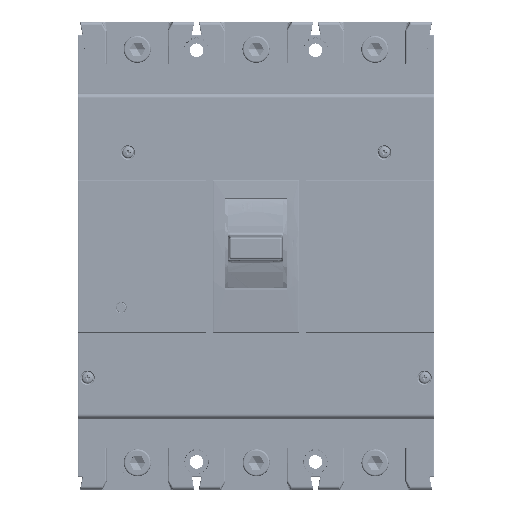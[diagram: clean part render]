
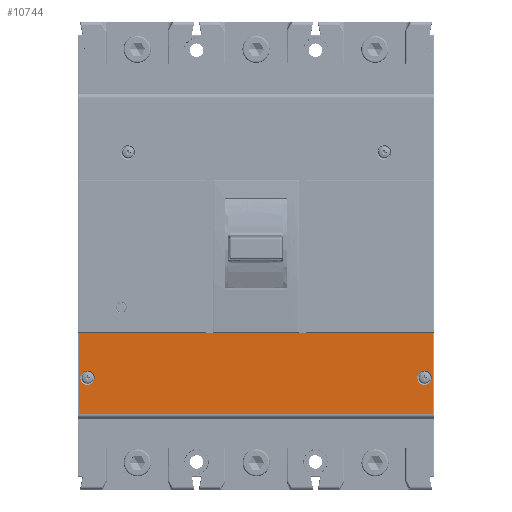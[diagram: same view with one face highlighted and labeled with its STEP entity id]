
A CAD part, top view. The second image highlights one B-rep face of the part: STEP entity #10744.
In plain terms, the highlighted planar face has unit normal (0, 0, 1).
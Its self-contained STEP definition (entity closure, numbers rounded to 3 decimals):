
#10744=ADVANCED_FACE('',(#35620,#35621,#35622),#14292,.F.);
#14292=PLANE('',#97650);
#23233=LINE('',#150681,#32996);
#23432=LINE('',#151176,#33195);
#23445=LINE('',#151214,#33208);
#23449=LINE('',#151224,#33212);
#23450=LINE('',#151226,#33213);
#23451=LINE('',#151228,#33214);
#23452=LINE('',#151229,#33215);
#23453=LINE('',#151231,#33216);
#32996=VECTOR('',#119491,1.);
#33195=VECTOR('',#119890,1.);
#33208=VECTOR('',#119919,1.);
#33212=VECTOR('',#119929,1.);
#33213=VECTOR('',#119930,1.);
#33214=VECTOR('',#119931,1.);
#33215=VECTOR('',#119932,1.);
#33216=VECTOR('',#119933,1.);
#35620=FACE_BOUND('',#40835,.T.);
#35621=FACE_BOUND('',#40836,.T.);
#35622=FACE_BOUND('',#40837,.T.);
#40835=EDGE_LOOP('',(#64038,#64039,#64040,#64041,#64042,#64043,#64044,#64045));
#40836=EDGE_LOOP('',(#64046));
#40837=EDGE_LOOP('',(#64047));
#64038=ORIENTED_EDGE('',*,*,#87511,.T.);
#64039=ORIENTED_EDGE('',*,*,#87535,.F.);
#64040=ORIENTED_EDGE('',*,*,#87536,.T.);
#64041=ORIENTED_EDGE('',*,*,#87537,.F.);
#64042=ORIENTED_EDGE('',*,*,#87262,.F.);
#64043=ORIENTED_EDGE('',*,*,#87538,.F.);
#64044=ORIENTED_EDGE('',*,*,#87539,.T.);
#64045=ORIENTED_EDGE('',*,*,#87530,.T.);
#64046=ORIENTED_EDGE('',*,*,#87540,.T.);
#64047=ORIENTED_EDGE('',*,*,#87541,.T.);
#75016=VERTEX_POINT('',#150680);
#75017=VERTEX_POINT('',#150682);
#75212=VERTEX_POINT('',#151175);
#75213=VERTEX_POINT('',#151177);
#75230=VERTEX_POINT('',#151215);
#75233=VERTEX_POINT('',#151225);
#75234=VERTEX_POINT('',#151227);
#75235=VERTEX_POINT('',#151230);
#75236=VERTEX_POINT('',#151233);
#75237=VERTEX_POINT('',#151235);
#87262=EDGE_CURVE('',#75016,#75017,#23233,.T.);
#87511=EDGE_CURVE('',#75213,#75212,#23432,.T.);
#87530=EDGE_CURVE('',#75230,#75213,#23445,.T.);
#87535=EDGE_CURVE('',#75233,#75212,#23449,.T.);
#87536=EDGE_CURVE('',#75233,#75234,#23450,.T.);
#87537=EDGE_CURVE('',#75017,#75234,#23451,.T.);
#87538=EDGE_CURVE('',#75235,#75016,#23452,.T.);
#87539=EDGE_CURVE('',#75235,#75230,#23453,.T.);
#87540=EDGE_CURVE('',#75236,#75236,#91060,.T.);
#87541=EDGE_CURVE('',#75237,#75237,#91061,.T.);
#91060=CIRCLE('',#97648,4.25);
#91061=CIRCLE('',#97649,4.25);
#97648=AXIS2_PLACEMENT_3D('',#151232,#119934,#119935);
#97649=AXIS2_PLACEMENT_3D('',#151234,#119936,#119937);
#97650=AXIS2_PLACEMENT_3D('',#151236,#119938,#119939);
#119491=DIRECTION('',(0.,-1.,0.));
#119890=DIRECTION('',(0.,1.,0.));
#119919=DIRECTION('',(1.,0.,0.));
#119929=DIRECTION('',(1.,0.,0.));
#119930=DIRECTION('',(0.,-1.,0.));
#119931=DIRECTION('',(1.,0.,0.));
#119932=DIRECTION('',(1.,0.,0.));
#119933=DIRECTION('',(0.,-1.,0.));
#119934=DIRECTION('',(0.,0.,-1.));
#119935=DIRECTION('',(-1.,0.,0.));
#119936=DIRECTION('',(0.,0.,-1.));
#119937=DIRECTION('',(-1.,0.,0.));
#119938=DIRECTION('',(0.,0.,-1.));
#119939=DIRECTION('',(-1.,0.,0.));
#150680=CARTESIAN_POINT('',(711.934,201.064,40.));
#150681=CARTESIAN_POINT('',(711.934,251.965,40.));
#150682=CARTESIAN_POINT('',(711.934,200.764,40.));
#151175=CARTESIAN_POINT('',(845.934,201.064,40.));
#151176=CARTESIAN_POINT('',(845.934,251.965,40.));
#151177=CARTESIAN_POINT('',(845.934,153.258,40.));
#151214=CARTESIAN_POINT('',(846.435,153.258,40.));
#151215=CARTESIAN_POINT('',(636.934,153.258,40.));
#151224=CARTESIAN_POINT('',(770.934,201.064,40.));
#151225=CARTESIAN_POINT('',(770.934,201.064,40.));
#151226=CARTESIAN_POINT('',(770.934,186.665,40.));
#151227=CARTESIAN_POINT('',(770.934,200.764,40.));
#151228=CARTESIAN_POINT('',(631.935,200.764,40.));
#151229=CARTESIAN_POINT('',(770.934,201.064,40.));
#151230=CARTESIAN_POINT('',(636.934,201.064,40.));
#151231=CARTESIAN_POINT('',(636.934,246.064,40.));
#151232=CARTESIAN_POINT('',(642.184,174.461,40.));
#151233=CARTESIAN_POINT('',(637.934,174.461,40.));
#151234=CARTESIAN_POINT('',(840.684,174.461,40.));
#151235=CARTESIAN_POINT('',(836.434,174.461,40.));
#151236=CARTESIAN_POINT('',(631.935,251.965,40.));
